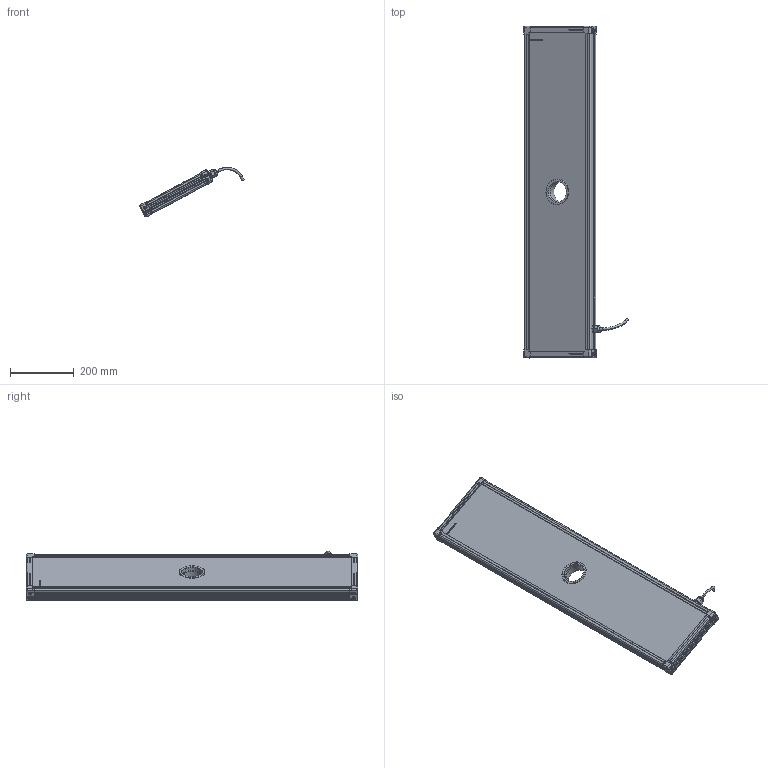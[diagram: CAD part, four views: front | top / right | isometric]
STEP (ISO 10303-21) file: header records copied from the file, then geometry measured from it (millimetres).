
FILE_DESCRIPTION (( 'STEP AP214' ), '1' );
FILE_NAME ('EFFI-FD-200-1000-ZZZ-1M12P.STEP', '2021-06-23T09:38:44', ( '' ), ( '' ), 'SwSTEP 2.0', 'SolidWorks 2021', '' );
FILE_SCHEMA (( 'AUTOMOTIVE_DESIGN' ));
Length unit declared in the file: millimetre
Products named in the file (13): profile Y_PERCE; petite joue; Assemblage Ø65; Pièce13^EFFI-FD-XXX-YYY-ZZZ (1 connecteur) M12POWER Ø65; 000629; 004408; 004409; profile X_PERCE; petite joue + vis; EFFI-FD-200-1000-ZZZ-1M12P; M12 power_AVEC CABLE D8.1; 000590
Assembly tree (19 placements, depth 3):
  EFFI-FD-200-1000-ZZZ-1M12P
    profile X_PERCE  x2
    profile Y_PERCE
    profile Y_PERCE
    Pièce13^EFFI-FD-XXX-YYY-ZZZ (1 connecteur) M12POWER Ø65
    petite joue + vis  x4
      petite joue
      000629
    M12 power_AVEC CABLE D8.1
    Assemblage Ø65
      004408
      004409
      000590  x3
Bounding box: 326.69 x 1039 x 155.49 mm (x, y, z)
Volume: 8441918.2 mm3; surface area: 905497.7 mm2
Topology: 22 solids, 25 shells, 3951 faces, 10520 edges, 6907 vertices
Faces by surface type: plane 2447, cylinder 720, bspline 591, cone 156, torus 29, sphere 8
Entity records: 56000 total; most frequent: CARTESIAN_POINT 22561, ORIENTED_EDGE 7014, DIRECTION 5746, EDGE_CURVE 3509, VECTOR 2458, LINE 2458, VERTEX_POINT 2308, AXIS2_PLACEMENT_3D 1644
